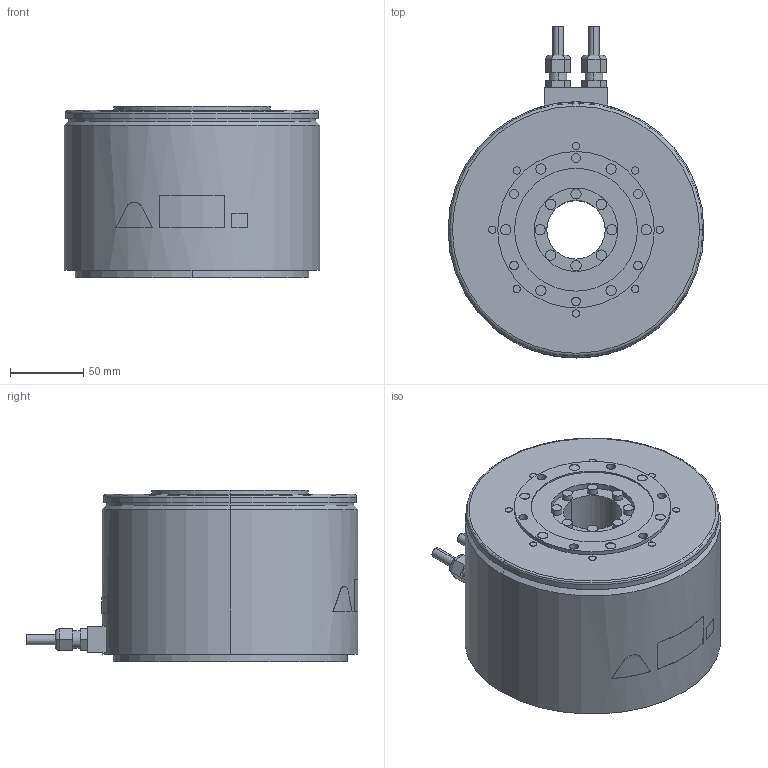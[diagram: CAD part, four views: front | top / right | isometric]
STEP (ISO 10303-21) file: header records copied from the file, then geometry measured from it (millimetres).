
FILE_DESCRIPTION (( 'STEP AP203' ), '1' );
FILE_NAME ('sgm7f_25c_a4_.STEP', '2016-07-24T06:27:13', ( '匠エンジニアリング山之内' ), ( 'TAKUMI-Engniaring' ), 'SwSTEP 2.0', 'SolidWorks 2006303', '' );
FILE_SCHEMA (( 'CONFIG_CONTROL_DESIGN' ));
Length unit declared in the file: millimetre
Products named in the file (1): sgm7f_25c_a4_
Bounding box: 175 x 227 x 117 mm (x, y, z)
Volume: 2590682.1 mm3; surface area: 158720.7 mm2
Topology: 1 solids, 1 shells, 247 faces, 520 edges, 340 vertices
Faces by surface type: cylinder 135, plane 106, cone 4, torus 2
Entity records: 6825 total; most frequent: DIRECTION 1256, CARTESIAN_POINT 1212, ORIENTED_EDGE 1040, EDGE_CURVE 520, AXIS2_PLACEMENT_3D 506, VERTEX_POINT 340, EDGE_LOOP 314, CIRCLE 258
